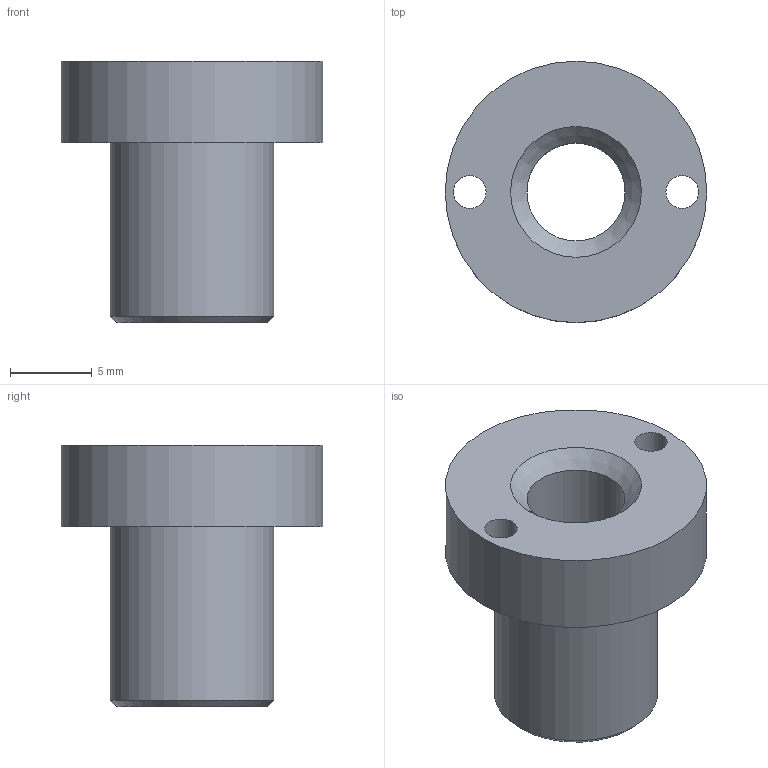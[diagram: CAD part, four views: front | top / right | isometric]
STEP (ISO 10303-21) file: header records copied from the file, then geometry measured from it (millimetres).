
FILE_DESCRIPTION(/* description */ ('Catch Nut'),/* implementation_level */ '2;1');
FILE_NAME(/* name */ 'Z:\Werkstatt Server\Projekte\Atlas\Entwicklung u. Konstruktion\Konstruktion\CAD Daten\ITkPixToolV2.0\Baremodule Jig\ITPTv2.01.00.15.stp',/* time_stamp */ '2021-08-06T14:55:22+02:00',/* author */ ('Tim Kanngießer'),/* organization */ (''),/* preprocessor_version */ 'ST-DEVELOPER v18.1',/* originating_system */ 'Autodesk Inventor 2022',/* authorisation */ '');
FILE_SCHEMA (('AUTOMOTIVE_DESIGN { 1 0 10303 214 3 1 1 }'));
Length unit declared in the file: millimetre
Products named in the file (1): ITPTv2.01.00.15
Bounding box: 16 x 16 x 16 mm (x, y, z)
Volume: 1362.1 mm3; surface area: 1267.3 mm2
Topology: 1 solids, 1 shells, 11 faces, 24 edges, 16 vertices
Faces by surface type: cylinder 5, cone 3, plane 3
Full cylindrical faces by diameter (mm): 2 x2, 6 x1, 10 x1, 16 x1
Entity records: 376 total; most frequent: DIRECTION 64, CARTESIAN_POINT 52, ORIENTED_EDGE 48, AXIS2_PLACEMENT_3D 28, EDGE_CURVE 24, EDGE_LOOP 18, CIRCLE 16, VERTEX_POINT 16
